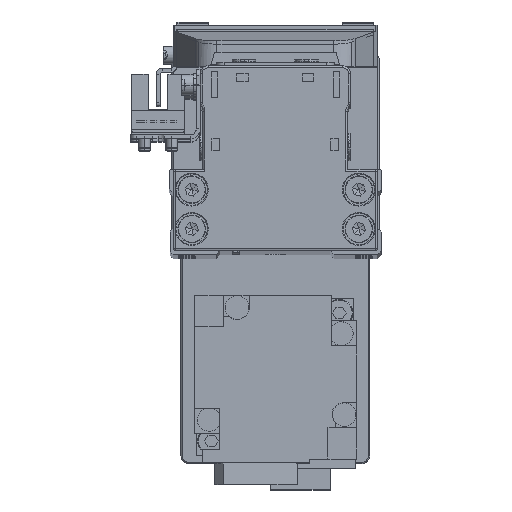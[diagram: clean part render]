
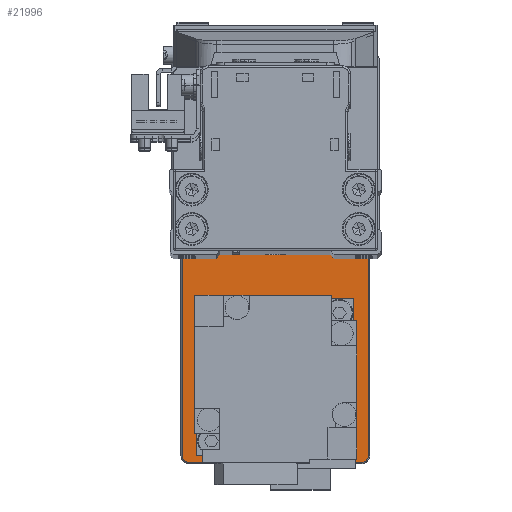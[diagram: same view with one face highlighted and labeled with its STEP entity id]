
A CAD part, top view. The second image highlights one B-rep face of the part: STEP entity #21996.
In plain terms, the highlighted planar face has unit normal (0, 0, 1).
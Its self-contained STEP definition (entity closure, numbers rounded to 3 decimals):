
#618 = DIRECTION ( 'NONE',  ( 0., 0., 1. ) ) ;
#750 = CARTESIAN_POINT ( 'NONE',  ( -51.7, -22., 5. ) ) ;
#1278 = ORIENTED_EDGE ( 'NONE', *, *, #31940, .T. ) ;
#1661 = VECTOR ( 'NONE', #13206, 1000. ) ;
#1730 = VERTEX_POINT ( 'NONE', #34637 ) ;
#2478 = CARTESIAN_POINT ( 'NONE',  ( 51.7, 22., 5. ) ) ;
#2489 = CARTESIAN_POINT ( 'NONE',  ( 30., 0., 5. ) ) ;
#2884 = VERTEX_POINT ( 'NONE', #3762 ) ;
#3150 = DIRECTION ( 'NONE',  ( 0., 0., 1. ) ) ;
#3234 = CARTESIAN_POINT ( 'NONE',  ( 51.7, 22., 5. ) ) ;
#3441 = AXIS2_PLACEMENT_3D ( 'NONE', #3746, #16154, #28548 ) ;
#3589 = ORIENTED_EDGE ( 'NONE', *, *, #9555, .T. ) ;
#3696 = FACE_OUTER_BOUND ( 'NONE', #35766, .T. ) ;
#3746 = CARTESIAN_POINT ( 'NONE',  ( 30., 0., 5. ) ) ;
#3762 = CARTESIAN_POINT ( 'NONE',  ( 50., 23.7, 5. ) ) ;
#3948 = EDGE_CURVE ( 'NONE', #2884, #20843, #20263, .T. ) ;
#4146 = DIRECTION ( 'NONE',  ( 0., 0., -1. ) ) ;
#4822 = DIRECTION ( 'NONE',  ( -1., 0., 0. ) ) ;
#4917 = EDGE_CURVE ( 'NONE', #1730, #7234, #31087, .T. ) ;
#5130 = VERTEX_POINT ( 'NONE', #20271 ) ;
#6041 = ORIENTED_EDGE ( 'NONE', *, *, #31900, .T. ) ;
#6954 = EDGE_CURVE ( 'NONE', #7234, #2884, #30691, .T. ) ;
#6982 = CARTESIAN_POINT ( 'NONE',  ( -50., 22., 5. ) ) ;
#7234 = VERTEX_POINT ( 'NONE', #2478 ) ;
#7505 = CARTESIAN_POINT ( 'NONE',  ( -50., 23.7, 5. ) ) ;
#7577 = AXIS2_PLACEMENT_3D ( 'NONE', #38262, #10480, #22840 ) ;
#7794 = EDGE_LOOP ( 'NONE', ( #6041, #36773 ) ) ;
#8139 = AXIS2_PLACEMENT_3D ( 'NONE', #14296, #26677, #39026 ) ;
#8208 = CARTESIAN_POINT ( 'NONE',  ( -50., -22., 5. ) ) ;
#8654 = CARTESIAN_POINT ( 'NONE',  ( -17.7, 0., 5. ) ) ;
#8781 = CARTESIAN_POINT ( 'NONE',  ( -50., -23.7, 5. ) ) ;
#9492 = EDGE_CURVE ( 'NONE', #11374, #37872, #26295, .T. ) ;
#9555 = EDGE_CURVE ( 'NONE', #10974, #11374, #27920, .T. ) ;
#10396 = AXIS2_PLACEMENT_3D ( 'NONE', #8208, #20597, #32985 ) ;
#10480 = DIRECTION ( 'NONE',  ( 0., 0., 1. ) ) ;
#10874 = DIRECTION ( 'NONE',  ( 1., 0., 0. ) ) ;
#10974 = VERTEX_POINT ( 'NONE', #33230 ) ;
#11374 = VERTEX_POINT ( 'NONE', #8781 ) ;
#13071 = DIRECTION ( 'NONE',  ( 1., 0., 0. ) ) ;
#13175 = AXIS2_PLACEMENT_3D ( 'NONE', #30997, #3150, #15561 ) ;
#13206 = DIRECTION ( 'NONE',  ( 0., -1., 0. ) ) ;
#14296 = CARTESIAN_POINT ( 'NONE',  ( -28., 0., 5. ) ) ;
#14866 = ORIENTED_EDGE ( 'NONE', *, *, #35248, .T. ) ;
#14914 = DIRECTION ( 'NONE',  ( 0., 0., -1. ) ) ;
#15018 = VERTEX_POINT ( 'NONE', #21449 ) ;
#15527 = VERTEX_POINT ( 'NONE', #18562 ) ;
#15561 = DIRECTION ( 'NONE',  ( 1., 0., 0. ) ) ;
#15640 = DIRECTION ( 'NONE',  ( 0., 1., 0. ) ) ;
#16107 = PLANE ( 'NONE',  #28061 ) ;
#16154 = DIRECTION ( 'NONE',  ( 0., 0., -1. ) ) ;
#16349 = VERTEX_POINT ( 'NONE', #22261 ) ;
#16447 = CIRCLE ( 'NONE', #39109, 12.8 ) ;
#16559 = DIRECTION ( 'NONE',  ( 1., 0., 0. ) ) ;
#17270 = AXIS2_PLACEMENT_3D ( 'NONE', #6982, #19365, #31763 ) ;
#18562 = CARTESIAN_POINT ( 'NONE',  ( -38.3, 0., 5. ) ) ;
#18966 = VECTOR ( 'NONE', #15640, 1000. ) ;
#19151 = FACE_BOUND ( 'NONE', #26999, .T. ) ;
#19365 = DIRECTION ( 'NONE',  ( 0., 0., 1. ) ) ;
#19894 = AXIS2_PLACEMENT_3D ( 'NONE', #31989, #4146, #16559 ) ;
#20263 = LINE ( 'NONE', #32661, #22794 ) ;
#20271 = CARTESIAN_POINT ( 'NONE',  ( 42.8, 0., 5. ) ) ;
#20597 = DIRECTION ( 'NONE',  ( 0., 0., 1. ) ) ;
#20843 = VERTEX_POINT ( 'NONE', #7505 ) ;
#20958 = CIRCLE ( 'NONE', #3441, 12.8 ) ;
#21386 = VERTEX_POINT ( 'NONE', #8654 ) ;
#21449 = CARTESIAN_POINT ( 'NONE',  ( 17.2, 0., 5. ) ) ;
#21996 = ADVANCED_FACE ( 'NONE', ( #19151, #31551, #3696 ), #16107, .T. ) ;
#22261 = CARTESIAN_POINT ( 'NONE',  ( -51.7, 22., 5. ) ) ;
#22557 = ORIENTED_EDGE ( 'NONE', *, *, #6954, .T. ) ;
#22672 = ORIENTED_EDGE ( 'NONE', *, *, #9492, .T. ) ;
#22794 = VECTOR ( 'NONE', #4822, 1000. ) ;
#22840 = DIRECTION ( 'NONE',  ( 1., 0., 0. ) ) ;
#23251 = ORIENTED_EDGE ( 'NONE', *, *, #25604, .T. ) ;
#25087 = CIRCLE ( 'NONE', #7577, 1.7 ) ;
#25604 = EDGE_CURVE ( 'NONE', #20843, #16349, #34754, .T. ) ;
#25658 = CIRCLE ( 'NONE', #8139, 10.3 ) ;
#26295 = LINE ( 'NONE', #38652, #36953 ) ;
#26551 = ORIENTED_EDGE ( 'NONE', *, *, #4917, .T. ) ;
#26677 = DIRECTION ( 'NONE',  ( 0., 0., -1. ) ) ;
#26952 = ORIENTED_EDGE ( 'NONE', *, *, #3948, .T. ) ;
#26999 = EDGE_LOOP ( 'NONE', ( #27703, #30633 ) ) ;
#27301 = DIRECTION ( 'NONE',  ( 1., 0., 0. ) ) ;
#27703 = ORIENTED_EDGE ( 'NONE', *, *, #39321, .T. ) ;
#27920 = CIRCLE ( 'NONE', #10396, 1.7 ) ;
#28061 = AXIS2_PLACEMENT_3D ( 'NONE', #28500, #618, #13071 ) ;
#28500 = CARTESIAN_POINT ( 'NONE',  ( 0., 0., 5. ) ) ;
#28548 = DIRECTION ( 'NONE',  ( 1., 0., 0. ) ) ;
#28641 = LINE ( 'NONE', #750, #1661 ) ;
#30633 = ORIENTED_EDGE ( 'NONE', *, *, #39028, .T. ) ;
#30691 = CIRCLE ( 'NONE', #13175, 1.7 ) ;
#30997 = CARTESIAN_POINT ( 'NONE',  ( 50., 22., 5. ) ) ;
#31087 = LINE ( 'NONE', #3234, #18966 ) ;
#31551 = FACE_BOUND ( 'NONE', #7794, .T. ) ;
#31763 = DIRECTION ( 'NONE',  ( 1., 0., 0. ) ) ;
#31900 = EDGE_CURVE ( 'NONE', #21386, #15527, #37392, .T. ) ;
#31940 = EDGE_CURVE ( 'NONE', #37872, #1730, #25087, .T. ) ;
#31989 = CARTESIAN_POINT ( 'NONE',  ( -28., 0., 5. ) ) ;
#32661 = CARTESIAN_POINT ( 'NONE',  ( -50., 23.7, 5. ) ) ;
#32985 = DIRECTION ( 'NONE',  ( 1., 0., 0. ) ) ;
#33230 = CARTESIAN_POINT ( 'NONE',  ( -51.7, -22., 5. ) ) ;
#34445 = EDGE_CURVE ( 'NONE', #15527, #21386, #25658, .T. ) ;
#34637 = CARTESIAN_POINT ( 'NONE',  ( 51.7, -22., 5. ) ) ;
#34754 = CIRCLE ( 'NONE', #17270, 1.7 ) ;
#34815 = CARTESIAN_POINT ( 'NONE',  ( 50., -23.7, 5. ) ) ;
#35248 = EDGE_CURVE ( 'NONE', #16349, #10974, #28641, .T. ) ;
#35766 = EDGE_LOOP ( 'NONE', ( #22672, #1278, #26551, #22557, #26952, #23251, #14866, #3589 ) ) ;
#36773 = ORIENTED_EDGE ( 'NONE', *, *, #34445, .T. ) ;
#36953 = VECTOR ( 'NONE', #10874, 1000. ) ;
#37392 = CIRCLE ( 'NONE', #19894, 10.3 ) ;
#37872 = VERTEX_POINT ( 'NONE', #34815 ) ;
#38262 = CARTESIAN_POINT ( 'NONE',  ( 50., -22., 5. ) ) ;
#38652 = CARTESIAN_POINT ( 'NONE',  ( 50., -23.7, 5. ) ) ;
#39026 = DIRECTION ( 'NONE',  ( 1., 0., 0. ) ) ;
#39028 = EDGE_CURVE ( 'NONE', #15018, #5130, #20958, .T. ) ;
#39109 = AXIS2_PLACEMENT_3D ( 'NONE', #2489, #14914, #27301 ) ;
#39321 = EDGE_CURVE ( 'NONE', #5130, #15018, #16447, .T. ) ;
